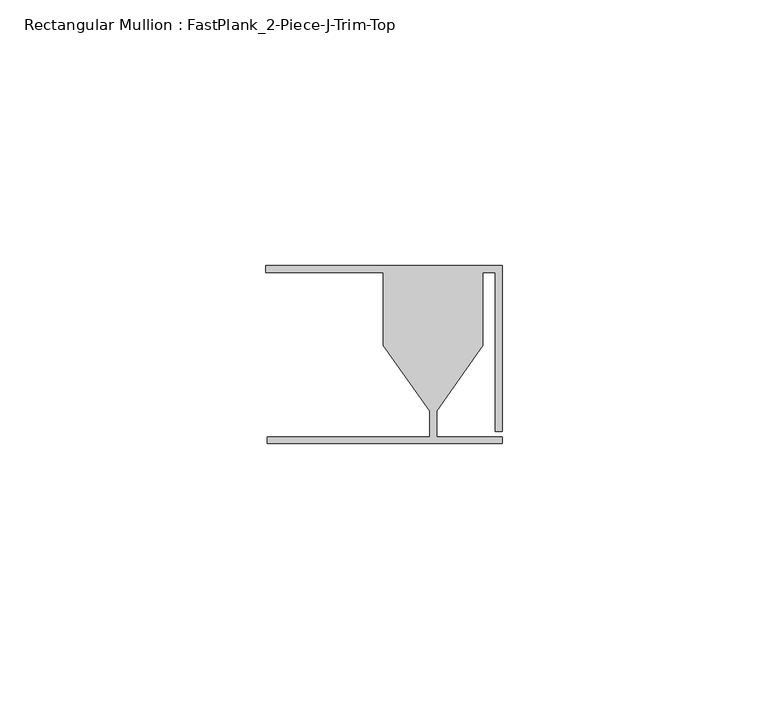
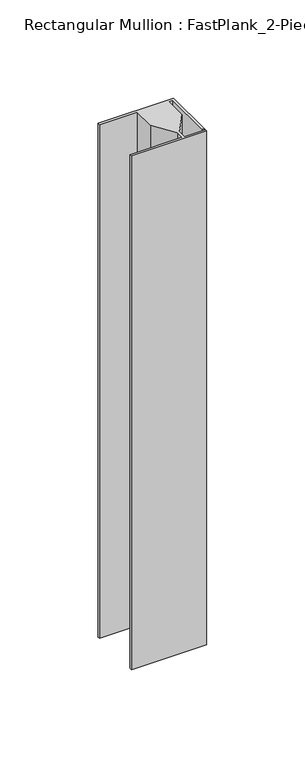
"""IFC4 building model written with IfcOpenShell, lengths in millimetres: member geometry, Rectangular Mullion : FastPlank_2-Piece-J-Trim-Top."""

import ifcopenshell
import ifcopenshell.guid

model = None  # the IFC model being written
_history = None  # IfcOwnerHistory: only IFC2X3 demands one
_inside = {}  # id of a spatial element -> (the spatial element, [elements in it])
_under = {}  # id of a project, library or spatial element -> (it, [spatial elements below it])
_declared = {}  # id of a project -> (the project, [libraries it declares])
_typed = {}  # id of a type object -> (the type object, [elements of that type])
_made_of = {}  # id of a material, layer set ... -> (it, [elements and type objects made of it])


def new_model(schema):
    """Start an empty IFC model of exactly this schema.

    Asked for "IFC4X3", IfcOpenShell would pick the latest addendum, in which some entities
    have other attributes; the version numbers below select the first issue.
    IFC2X3 requires an IfcOwnerHistory on every rooted entity: one is made here for all.
    """
    global model, _history
    if schema == "IFC4X3":
        model = ifcopenshell.file(schema_version=(4, 3, 0, 0))
    else:
        model = ifcopenshell.file(schema=schema)
    _inside.clear()
    _under.clear()
    _declared.clear()
    _typed.clear()
    _made_of.clear()
    _history = None
    if model.schema == "IFC2X3":
        org = make("IfcOrganization", Name="unknown")
        user = make(
            "IfcPersonAndOrganization",
            ThePerson=make("IfcPerson", FamilyName="unknown"),
            TheOrganization=org,
        )
        app = make(
            "IfcApplication",
            ApplicationDeveloper=org,
            Version="unknown",
            ApplicationFullName="unknown",
            ApplicationIdentifier="unknown",
        )
        _history = make(
            "IfcOwnerHistory",
            OwningUser=user,
            OwningApplication=app,
            ChangeAction="ADDED",
            CreationDate=0,
        )
    return model


def make(cls, **values):
    """One entity of the class cls with the attributes given. An attribute that is None is left unset."""
    return model.create_entity(
        cls, **{name: value for name, value in values.items() if value is not None}
    )


def rooted(cls, **values):
    """An entity with a GlobalId (a new one), such as an element, a storey or a relation."""
    return make(cls, GlobalId=ifcopenshell.guid.new(), OwnerHistory=_history, **values)


def si_unit(unit_type, name, prefix=None):
    """IfcSIUnit, for example si_unit("LENGTHUNIT", "METRE", prefix="MILLI")."""
    return make("IfcSIUnit", UnitType=unit_type, Prefix=prefix, Name=name)


def assignment(units):
    """IfcUnitAssignment: the units of a project."""
    return None if units is None else make("IfcUnitAssignment", Units=units)


def point(xyz):
    """IfcCartesianPoint."""
    return None if xyz is None else make("IfcCartesianPoint", Coordinates=xyz)


def direction(xyz):
    """IfcDirection."""
    return None if xyz is None else make("IfcDirection", DirectionRatios=xyz)


def frame(location, z_axis=None, x_axis=None):
    """IfcAxis2Placement3D, a coordinate frame: its origin and axes. An axis left out is left unset."""
    return make(
        "IfcAxis2Placement3D",
        Location=point(location),
        Axis=direction(z_axis),
        RefDirection=direction(x_axis),
    )


def origin():
    """The frame at (0, 0, 0) with its axes left unset."""
    return frame((0.0, 0.0, 0.0))


def place(relative_to, where):
    """IfcLocalPlacement: puts the frame where relative to a parent placement (None: the world)."""
    return make(
        "IfcLocalPlacement", PlacementRelTo=relative_to, RelativePlacement=where
    )


def context(
    kind, dimensions, precision=None, world=None, true_north=None, identifier=None
):
    """IfcGeometricRepresentationContext, for example the 3D "Model" context."""
    return make(
        "IfcGeometricRepresentationContext",
        ContextIdentifier=identifier,
        ContextType=kind,
        CoordinateSpaceDimension=dimensions,
        Precision=precision,
        WorldCoordinateSystem=world,
        TrueNorth=true_north,
    )


def project(units=None, contexts=None):
    """IfcProject with its units and contexts."""
    return rooted(
        "IfcProject",
        Name="project",
        RepresentationContexts=contexts,
        UnitsInContext=assignment(units),
    )


def spatial(cls, under=None, at=None, **own):
    """A site, building, storey or space (cls), placed at a placement, below another one or the project."""
    s = rooted(cls, ObjectPlacement=at, **own)
    if under is not None:
        _under.setdefault(under.id(), (under, []))[1].append(s)
    return s


def polyline(points):
    """IfcPolyline through the points."""
    return make("IfcPolyline", Points=[point(p) for p in points])


def outline(outer, holes=None, kind="AREA"):
    """IfcArbitraryClosedProfileDef: a profile drawn as a closed curve; with holes, ...WithVoids."""
    if holes is None:
        return make("IfcArbitraryClosedProfileDef", ProfileType=kind, OuterCurve=outer)
    return make(
        "IfcArbitraryProfileDefWithVoids",
        ProfileType=kind,
        OuterCurve=outer,
        InnerCurves=holes,
    )


def extrude(swept, where, along, depth):
    """IfcExtrudedAreaSolid: the profile swept, set in the frame where, extruded along a direction by depth."""
    return make(
        "IfcExtrudedAreaSolid",
        SweptArea=swept,
        Position=where,
        ExtrudedDirection=direction(along),
        Depth=depth,
    )


def shape(context_of_items, identifier, shape_type, items):
    """IfcShapeRepresentation: the items that make up one representation, for example the "Body"."""
    return make(
        "IfcShapeRepresentation",
        ContextOfItems=context_of_items,
        RepresentationIdentifier=identifier,
        RepresentationType=shape_type,
        Items=items,
    )


def source(mapping_origin, context_of_items, identifier, shape_type, items):
    """IfcRepresentationMap: a shape defined once, which mapped items show again and again."""
    return make(
        "IfcRepresentationMap",
        MappingOrigin=mapping_origin,
        MappedRepresentation=shape(context_of_items, identifier, shape_type, items),
    )


def transform(
    local_origin,
    x_axis=None,
    y_axis=None,
    z_axis=None,
    scale=None,
    scale2=None,
    scale3=None,
    uniform=True,
):
    """IfcCartesianTransformationOperator3D, or its non-uniform kind. x_axis, y_axis, z_axis: its Axis1, 2, 3."""
    if uniform:
        return make(
            "IfcCartesianTransformationOperator3D",
            Axis1=direction(x_axis),
            Axis2=direction(y_axis),
            LocalOrigin=point(local_origin),
            Scale=scale,
            Axis3=direction(z_axis),
        )
    return make(
        "IfcCartesianTransformationOperator3DnonUniform",
        Axis1=direction(x_axis),
        Axis2=direction(y_axis),
        LocalOrigin=point(local_origin),
        Scale=scale,
        Axis3=direction(z_axis),
        Scale2=scale2,
        Scale3=scale3,
    )


def mapped(mapping_source, mapping_target):
    """IfcMappedItem: shows the shape of a source again, moved by a transform."""
    return make(
        "IfcMappedItem", MappingSource=mapping_source, MappingTarget=mapping_target
    )


def made_of(thing, what):
    """Note that an element or type object is made of a material, layer set ...; save() writes the relation."""
    if what is not None:
        _made_of.setdefault(what.id(), (what, []))[1].append(thing)
    return thing


def element(
    cls,
    number,
    at=None,
    inside=None,
    cuts=None,
    type_object=None,
    material=None,
    context=None,
    identifier="Body",
    shape_type=None,
    held_by="IfcProductDefinitionShape",
    body=None,
    shapes=None,
    **own,
):
    """One element of the class cls, such as IfcWall. Its Tag is "e" and its number.

    at: its placement. inside: the storey or other place that contains it. cuts: it is an
    opening in that element (IfcRelVoidsElement). A single representation is given by context,
    identifier, shape_type and body (its items); several are given by shapes. held_by: the class
    of the entity that holds the representations. save() writes the other relations.
    """
    e = rooted(cls, Tag="e%d" % number, ObjectPlacement=at, **own)
    if body is not None:
        shapes = [shape(context, identifier, shape_type, body)]
    if shapes is not None:
        e.Representation = make(held_by, Representations=shapes)
    if inside is not None:
        _inside.setdefault(inside.id(), (inside, []))[1].append(e)
    if cuts is not None:
        rooted(
            "IfcRelVoidsElement", RelatingBuildingElement=cuts, RelatedOpeningElement=e
        )
    if type_object is not None:
        _typed.setdefault(type_object.id(), (type_object, []))[1].append(e)
    return made_of(e, material)


def aggregate(whole, parts):
    """IfcRelAggregates: a whole, such as a stair, and the parts it consists of."""
    return rooted("IfcRelAggregates", RelatingObject=whole, RelatedObjects=parts)


def save(model, path):
    """Write the relations noted so far, then the file.

    IfcRelAggregates (storeys below a building ...), IfcRelContainedInSpatialStructure (elements
    in a storey), IfcRelDefinesByType, IfcRelAssociatesMaterial and IfcRelDeclares: one each for
    every whole, place, type object, material and project.
    """
    for whole, parts in _under.values():
        aggregate(whole, parts)
    for where, things in _inside.values():
        rooted(
            "IfcRelContainedInSpatialStructure",
            RelatedElements=things,
            RelatingStructure=where,
        )
    for kind, things in _typed.values():
        rooted("IfcRelDefinesByType", RelatedObjects=things, RelatingType=kind)
    for what, things in _made_of.values():
        rooted("IfcRelAssociatesMaterial", RelatedObjects=things, RelatingMaterial=what)
    for by, libraries in _declared.values():
        rooted("IfcRelDeclares", RelatingContext=by, RelatedDefinitions=libraries)
    model.write(path)


def rectangular_mullion_fastplank_2_piece_j_trim_top_b86e618e(model_context):
    return source(origin(), model_context, "Body", "SweptSolid", [
        extrude(outline(polyline([(0.0, -11.8625052), (-44.2023711, -11.8625052), (-44.2023711, -10.5618154), (-13.6176438, -10.5618154), (-13.6176438, -5.7038113), (-22.3299553, 6.6543757), (-22.3299553, 20.3381228), (-44.4475015, 20.3381228), (-44.4475015, 21.6381202), (0.0, 21.6381202), (0.0, -9.5619969), (-1.2999974, -9.5619969), (-1.2999974, 20.3381228), (-3.6053348, 20.3381228), (-3.6053348, 6.6543757), (-12.3176464, -5.7038113), (-12.3176464, -10.5618154), (0.0, -10.5618154), (0.0, -11.8625052)])), frame((0.0, 0.0, -319.1844899), z_axis=(0.0, 0.0, 1.0), x_axis=(1.0, 0.0, 0.0)), (0.0, 0.0, 1.0), 319.1844899),
    ])


if __name__ == "__main__":
    model = new_model("IFC4")
    model_context = context("Model", 3, world=origin())
    ifc_project = project(units=[si_unit("LENGTHUNIT", "METRE", prefix="MILLI")], contexts=[model_context])
    site = spatial("IfcSite", under=ifc_project)
    building = spatial("IfcBuilding", under=site)
    placement = place(None, origin())
    rectangular_mullion_fastplank_2_piece_j_trim_top_shape = rectangular_mullion_fastplank_2_piece_j_trim_top_b86e618e(model_context)
    element("IfcMember", 1, ObjectType="Rectangular Mullion : FastPlank_2-Piece-J-Trim-Top", at=placement, inside=building, context=model_context, shape_type="MappedRepresentation", body=[
        mapped(rectangular_mullion_fastplank_2_piece_j_trim_top_shape, transform((0.0, 0.0, 0.0), x_axis=(1.0, 0.0, 0.0), y_axis=(0.0, 1.0, 0.0), z_axis=(0.0, 0.0, 1.0))),
    ])
    save(model, "model.ifc")
